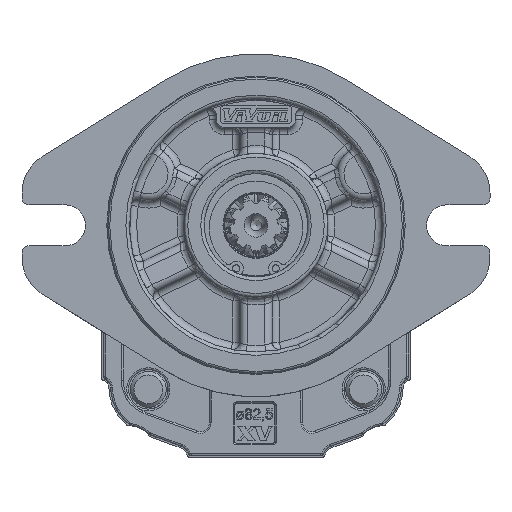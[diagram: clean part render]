
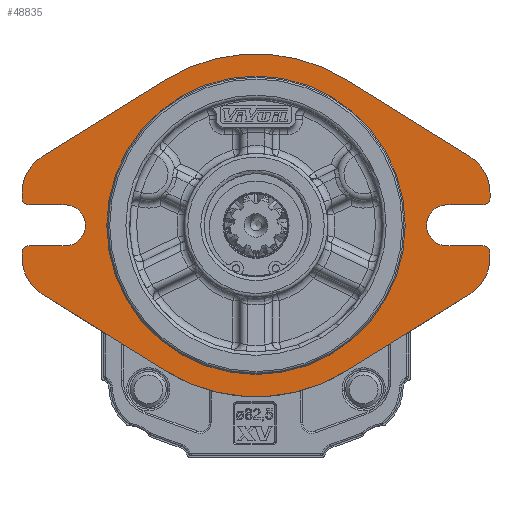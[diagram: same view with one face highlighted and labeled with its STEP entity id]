
A CAD part, front view. The second image highlights one B-rep face of the part: STEP entity #48835.
In plain terms, the highlighted planar face has unit normal (0, -1, 0).
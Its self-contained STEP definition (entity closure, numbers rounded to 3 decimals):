
#2819=LINE('',#68519,#4910);
#2823=LINE('',#68531,#4914);
#2824=LINE('',#68533,#4915);
#2831=LINE('',#68552,#4922);
#2832=LINE('',#68554,#4923);
#2839=LINE('',#68583,#4930);
#2840=LINE('',#68588,#4931);
#2841=LINE('',#68592,#4932);
#2842=LINE('',#68595,#4933);
#2843=LINE('',#68599,#4934);
#2844=LINE('',#68603,#4935);
#2845=LINE('',#68607,#4936);
#4910=VECTOR('',#56348,1000.);
#4914=VECTOR('',#56360,1000.);
#4915=VECTOR('',#56363,1000.);
#4922=VECTOR('',#56378,1000.);
#4923=VECTOR('',#56381,1000.);
#4930=VECTOR('',#56410,1000.);
#4931=VECTOR('',#56413,1000.);
#4932=VECTOR('',#56416,1000.);
#4933=VECTOR('',#56421,1000.);
#4934=VECTOR('',#56424,1000.);
#4935=VECTOR('',#56427,1000.);
#4936=VECTOR('',#56430,1000.);
#6549=PLANE('',#51431);
#10228=ORIENTED_EDGE('',*,*,#19623,.T.);
#10229=ORIENTED_EDGE('',*,*,#19624,.F.);
#10230=ORIENTED_EDGE('',*,*,#19625,.T.);
#10231=ORIENTED_EDGE('',*,*,#19626,.F.);
#10232=ORIENTED_EDGE('',*,*,#19627,.F.);
#10233=ORIENTED_EDGE('',*,*,#19628,.F.);
#10234=ORIENTED_EDGE('',*,*,#19544,.F.);
#10235=ORIENTED_EDGE('',*,*,#19593,.F.);
#10236=ORIENTED_EDGE('',*,*,#19596,.F.);
#10237=ORIENTED_EDGE('',*,*,#19599,.F.);
#10238=ORIENTED_EDGE('',*,*,#19629,.T.);
#10239=ORIENTED_EDGE('',*,*,#19600,.F.);
#10240=ORIENTED_EDGE('',*,*,#19606,.F.);
#10241=ORIENTED_EDGE('',*,*,#19609,.F.);
#10242=ORIENTED_EDGE('',*,*,#19630,.T.);
#10243=ORIENTED_EDGE('',*,*,#19610,.F.);
#10244=ORIENTED_EDGE('',*,*,#19622,.F.);
#10245=ORIENTED_EDGE('',*,*,#19631,.F.);
#10246=ORIENTED_EDGE('',*,*,#19632,.F.);
#10247=ORIENTED_EDGE('',*,*,#19633,.F.);
#10248=ORIENTED_EDGE('',*,*,#19634,.F.);
#10249=ORIENTED_EDGE('',*,*,#19635,.F.);
#10250=ORIENTED_EDGE('',*,*,#19636,.T.);
#10251=ORIENTED_EDGE('',*,*,#19637,.F.);
#10252=ORIENTED_EDGE('',*,*,#19638,.F.);
#19544=EDGE_CURVE('',#24388,#24389,#27213,.T.);
#19593=EDGE_CURVE('',#24431,#24388,#2819,.T.);
#19596=EDGE_CURVE('',#24433,#24431,#27241,.T.);
#19599=EDGE_CURVE('',#24435,#24433,#2823,.T.);
#19600=EDGE_CURVE('',#24436,#24437,#2824,.T.);
#19606=EDGE_CURVE('',#24441,#24436,#27243,.T.);
#19609=EDGE_CURVE('',#24443,#24441,#2831,.T.);
#19610=EDGE_CURVE('',#24444,#24445,#2832,.T.);
#19622=EDGE_CURVE('',#24453,#24444,#27249,.T.);
#19623=EDGE_CURVE('',#24454,#24454,#27250,.T.);
#19624=EDGE_CURVE('',#24455,#24456,#2839,.T.);
#19625=EDGE_CURVE('',#24455,#24457,#27251,.F.);
#19626=EDGE_CURVE('',#24458,#24457,#2840,.T.);
#19627=EDGE_CURVE('',#24459,#24458,#27252,.T.);
#19628=EDGE_CURVE('',#24389,#24459,#2841,.T.);
#19629=EDGE_CURVE('',#24435,#24437,#27253,.F.);
#19630=EDGE_CURVE('',#24443,#24445,#27254,.F.);
#19631=EDGE_CURVE('',#24460,#24453,#2842,.T.);
#19632=EDGE_CURVE('',#24461,#24460,#27255,.T.);
#19633=EDGE_CURVE('',#24462,#24461,#2843,.T.);
#19634=EDGE_CURVE('',#24463,#24462,#27256,.T.);
#19635=EDGE_CURVE('',#24464,#24463,#2844,.T.);
#19636=EDGE_CURVE('',#24464,#24465,#27257,.F.);
#19637=EDGE_CURVE('',#24466,#24465,#2845,.T.);
#19638=EDGE_CURVE('',#24456,#24466,#27258,.T.);
#24388=VERTEX_POINT('',#68419);
#24389=VERTEX_POINT('',#68421);
#24431=VERTEX_POINT('',#68518);
#24433=VERTEX_POINT('',#68524);
#24435=VERTEX_POINT('',#68530);
#24436=VERTEX_POINT('',#68534);
#24437=VERTEX_POINT('',#68535);
#24441=VERTEX_POINT('',#68545);
#24443=VERTEX_POINT('',#68551);
#24444=VERTEX_POINT('',#68555);
#24445=VERTEX_POINT('',#68556);
#24453=VERTEX_POINT('',#68578);
#24454=VERTEX_POINT('',#68582);
#24455=VERTEX_POINT('',#68584);
#24456=VERTEX_POINT('',#68585);
#24457=VERTEX_POINT('',#68587);
#24458=VERTEX_POINT('',#68589);
#24459=VERTEX_POINT('',#68591);
#24460=VERTEX_POINT('',#68596);
#24461=VERTEX_POINT('',#68598);
#24462=VERTEX_POINT('',#68600);
#24463=VERTEX_POINT('',#68602);
#24464=VERTEX_POINT('',#68604);
#24465=VERTEX_POINT('',#68606);
#24466=VERTEX_POINT('',#68608);
#27213=CIRCLE('',#51380,47.75);
#27241=CIRCLE('',#51414,12.);
#27243=CIRCLE('',#51419,5.7);
#27249=CIRCLE('',#51430,12.);
#27250=CIRCLE('',#51432,40.982);
#27251=CIRCLE('',#51433,2.);
#27252=CIRCLE('',#51434,12.);
#27253=CIRCLE('',#51435,2.);
#27254=CIRCLE('',#51436,2.);
#27255=CIRCLE('',#51437,47.75);
#27256=CIRCLE('',#51438,12.);
#27257=CIRCLE('',#51439,2.);
#27258=CIRCLE('',#51440,5.7);
#29083=EDGE_LOOP('',(#10228));
#29084=EDGE_LOOP('',(#10229,#10230,#10231,#10232,#10233,#10234,#10235,#10236,
#10237,#10238,#10239,#10240,#10241,#10242,#10243,#10244,#10245,#10246,#10247,
#10248,#10249,#10250,#10251,#10252));
#31535=FACE_BOUND('',#29083,.T.);
#31536=FACE_BOUND('',#29084,.T.);
#48835=ADVANCED_FACE('',(#31535,#31536),#6549,.F.);
#51380=AXIS2_PLACEMENT_3D('',#68420,#56264,#56265);
#51414=AXIS2_PLACEMENT_3D('',#68525,#56354,#56355);
#51419=AXIS2_PLACEMENT_3D('',#68546,#56372,#56373);
#51430=AXIS2_PLACEMENT_3D('',#68579,#56404,#56405);
#51431=AXIS2_PLACEMENT_3D('',#68580,#56406,#56407);
#51432=AXIS2_PLACEMENT_3D('',#68581,#56408,#56409);
#51433=AXIS2_PLACEMENT_3D('',#68586,#56411,#56412);
#51434=AXIS2_PLACEMENT_3D('',#68590,#56414,#56415);
#51435=AXIS2_PLACEMENT_3D('',#68593,#56417,#56418);
#51436=AXIS2_PLACEMENT_3D('',#68594,#56419,#56420);
#51437=AXIS2_PLACEMENT_3D('',#68597,#56422,#56423);
#51438=AXIS2_PLACEMENT_3D('',#68601,#56425,#56426);
#51439=AXIS2_PLACEMENT_3D('',#68605,#56428,#56429);
#51440=AXIS2_PLACEMENT_3D('',#68609,#56431,#56432);
#56264=DIRECTION('',(0.,1.,0.));
#56265=DIRECTION('',(-1.,0.,0.));
#56348=DIRECTION('',(-0.849,0.,-0.528));
#56354=DIRECTION('',(0.,1.,0.));
#56355=DIRECTION('',(-1.,0.,0.));
#56360=DIRECTION('',(0.,0.,-1.));
#56363=DIRECTION('',(1.,0.,0.));
#56372=DIRECTION('',(0.,-1.,0.));
#56373=DIRECTION('',(1.,0.,0.));
#56378=DIRECTION('',(-1.,0.,0.));
#56381=DIRECTION('',(0.,0.,-1.));
#56404=DIRECTION('',(0.,1.,0.));
#56405=DIRECTION('',(-1.,0.,0.));
#56406=DIRECTION('',(0.,1.,0.));
#56407=DIRECTION('',(0.,0.,-1.));
#56408=DIRECTION('',(0.,1.,0.));
#56409=DIRECTION('',(-1.,0.,0.));
#56410=DIRECTION('',(1.,0.,0.));
#56411=DIRECTION('',(0.,1.,0.));
#56412=DIRECTION('',(0.,0.,-1.));
#56413=DIRECTION('',(0.,0.,1.));
#56414=DIRECTION('',(0.,1.,0.));
#56415=DIRECTION('',(1.,0.,0.));
#56416=DIRECTION('',(-0.849,0.,0.528));
#56417=DIRECTION('',(0.,1.,0.));
#56418=DIRECTION('',(0.,0.,-1.));
#56419=DIRECTION('',(0.,1.,0.));
#56420=DIRECTION('',(0.,0.,-1.));
#56421=DIRECTION('',(0.849,0.,-0.528));
#56422=DIRECTION('',(0.,1.,0.));
#56423=DIRECTION('',(-1.,0.,0.));
#56424=DIRECTION('',(0.849,0.,0.528));
#56425=DIRECTION('',(0.,1.,0.));
#56426=DIRECTION('',(1.,0.,0.));
#56427=DIRECTION('',(0.,0.,1.));
#56428=DIRECTION('',(0.,1.,0.));
#56429=DIRECTION('',(0.,0.,-1.));
#56430=DIRECTION('',(-1.,0.,0.));
#56431=DIRECTION('',(0.,-1.,0.));
#56432=DIRECTION('',(-1.,0.,0.));
#68419=CARTESIAN_POINT('',(25.235,-19.,-24.837));
#68420=CARTESIAN_POINT('',(0.,-19.,15.7));
#68421=CARTESIAN_POINT('',(-25.235,-19.,-24.837));
#68518=CARTESIAN_POINT('',(59.532,-19.,-3.487));
#68519=CARTESIAN_POINT('',(59.532,-19.,-3.487));
#68524=CARTESIAN_POINT('',(65.19,-19.,6.7));
#68525=CARTESIAN_POINT('',(53.19,-19.,6.7));
#68530=CARTESIAN_POINT('',(65.19,-19.,8.));
#68531=CARTESIAN_POINT('',(65.19,-19.,6.7));
#68533=CARTESIAN_POINT('',(53.19,-19.,10.));
#68534=CARTESIAN_POINT('',(53.19,-19.,10.));
#68535=CARTESIAN_POINT('',(63.19,-19.,10.));
#68545=CARTESIAN_POINT('',(53.19,-19.,21.4));
#68546=CARTESIAN_POINT('',(53.19,-19.,15.7));
#68551=CARTESIAN_POINT('',(63.19,-19.,21.4));
#68552=CARTESIAN_POINT('',(53.19,-19.,21.4));
#68554=CARTESIAN_POINT('',(65.19,-19.,24.7));
#68555=CARTESIAN_POINT('',(65.19,-19.,24.7));
#68556=CARTESIAN_POINT('',(65.19,-19.,23.4));
#68578=CARTESIAN_POINT('',(59.532,-19.,34.887));
#68579=CARTESIAN_POINT('',(53.19,-19.,24.7));
#68580=CARTESIAN_POINT('',(0.,-19.,15.7));
#68581=CARTESIAN_POINT('',(0.,-19.,15.7));
#68582=CARTESIAN_POINT('',(-40.982,-19.,15.7));
#68583=CARTESIAN_POINT('',(-53.19,-19.,10.));
#68584=CARTESIAN_POINT('',(-63.19,-19.,10.));
#68585=CARTESIAN_POINT('',(-53.19,-19.,10.));
#68586=CARTESIAN_POINT('',(-63.19,-19.,8.));
#68587=CARTESIAN_POINT('',(-65.19,-19.,8.));
#68588=CARTESIAN_POINT('',(-65.19,-19.,6.7));
#68589=CARTESIAN_POINT('',(-65.19,-19.,6.7));
#68590=CARTESIAN_POINT('',(-53.19,-19.,6.7));
#68591=CARTESIAN_POINT('',(-59.532,-19.,-3.487));
#68592=CARTESIAN_POINT('',(-59.532,-19.,-3.487));
#68593=CARTESIAN_POINT('',(63.19,-19.,8.));
#68594=CARTESIAN_POINT('',(63.19,-19.,23.4));
#68595=CARTESIAN_POINT('',(25.235,-19.,56.237));
#68596=CARTESIAN_POINT('',(25.235,-19.,56.237));
#68597=CARTESIAN_POINT('',(0.,-19.,15.7));
#68598=CARTESIAN_POINT('',(-25.235,-19.,56.237));
#68599=CARTESIAN_POINT('',(-25.235,-19.,56.237));
#68600=CARTESIAN_POINT('',(-59.532,-19.,34.887));
#68601=CARTESIAN_POINT('',(-53.19,-19.,24.7));
#68602=CARTESIAN_POINT('',(-65.19,-19.,24.7));
#68603=CARTESIAN_POINT('',(-65.19,-19.,24.7));
#68604=CARTESIAN_POINT('',(-65.19,-19.,23.4));
#68605=CARTESIAN_POINT('',(-63.19,-19.,23.4));
#68606=CARTESIAN_POINT('',(-63.19,-19.,21.4));
#68607=CARTESIAN_POINT('',(-53.19,-19.,21.4));
#68608=CARTESIAN_POINT('',(-53.19,-19.,21.4));
#68609=CARTESIAN_POINT('',(-53.19,-19.,15.7));
